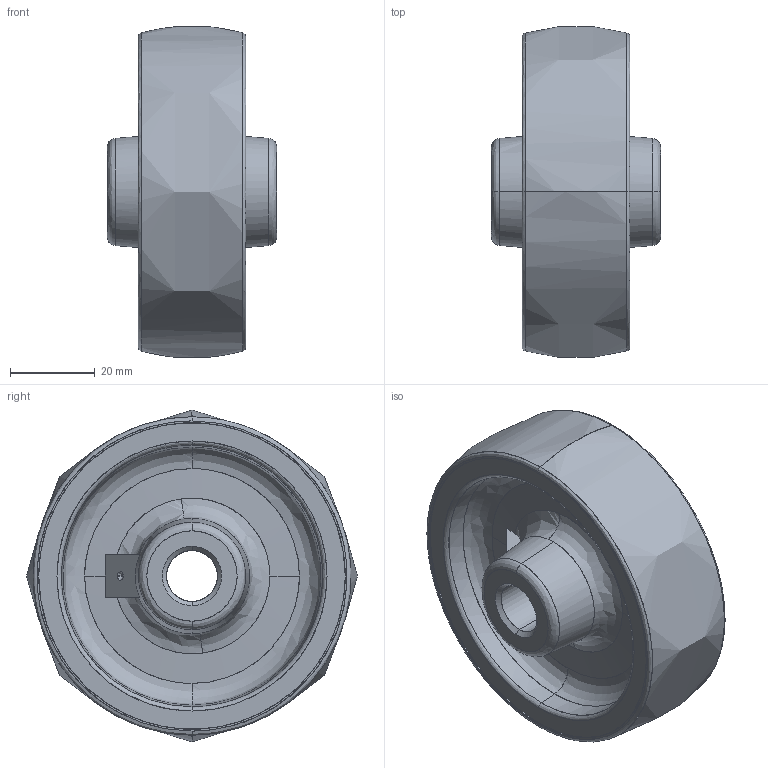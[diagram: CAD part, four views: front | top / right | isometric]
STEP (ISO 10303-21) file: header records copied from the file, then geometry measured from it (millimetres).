
FILE_DESCRIPTION(('STEP AP203'),'2;1');
FILE_NAME('9064_F.stp','2009-12-18T10:28:46',(''),(''),'2008.1.107','THINKDESIGN','');
FILE_SCHEMA(('CONFIG_CONTROL_DESIGN'));
Length unit declared in the file: millimetre
Bounding box: 40 x 78.13 x 78.37 mm (x, y, z)
Surface area: 25694.7 mm2 (no closed solid volume)
Topology: 0 solids, 0 shells, 56 faces, 642 edges, 640 vertices
Faces by surface type: bspline 45, plane 9, cylinder 2
Entity records: 5218 total; most frequent: CARTESIAN_POINT 3870, COMPOSITE_CURVE_SEGMENT 640, QUASI_UNIFORM_CURVE 128, B_SPLINE_CURVE_WITH_KNOTS 89, DIRECTION 82, OUTER_BOUNDARY_CURVE 56, CURVE_BOUNDED_SURFACE 56, TRIMMED_CURVE 56
